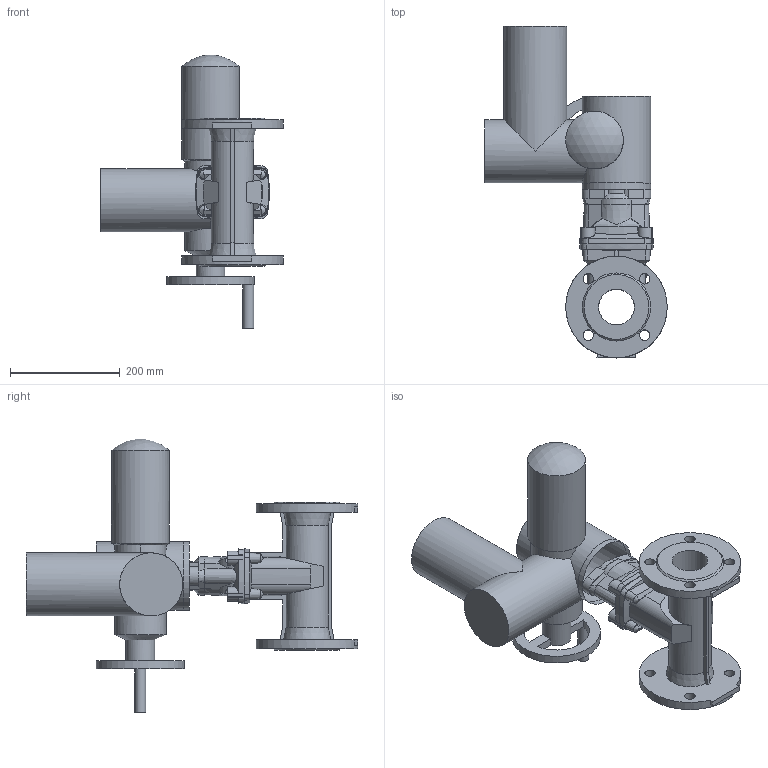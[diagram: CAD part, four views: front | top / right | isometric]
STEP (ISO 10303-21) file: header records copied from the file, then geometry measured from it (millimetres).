
FILE_DESCRIPTION (( 'STEP AP203' ), '1' );
FILE_NAME ('O_15_72_DN065_X1X_SA07.6_AA0.step', '2017-03-20T12:44:39', ( 'Windows User' ), ( 'AVK' ), 'SwSTEP 2.0', 'SolidWorks 2012', '' );
FILE_SCHEMA (( 'CONFIG_CONTROL_DESIGN' ));
Length unit declared in the file: inch
Products named in the file (1): O_15_72_DN065_X1X_SA07.6_AA0
Bounding box: 332.5 x 604.5 x 498.55 mm (x, y, z)
Volume: 10753362.5 mm3; surface area: 648384.8 mm2
Topology: 1 solids, 1 shells, 267 faces, 732 edges, 472 vertices
Faces by surface type: plane 131, cylinder 65, cone 62, torus 6, bspline 2, sphere 1
Full cylindrical faces by diameter (mm): 19 x8, 20 x1, 52.112 x1, 65 x1, 93.905 x1, 105 x1, 115 x2, 125 x2, 160 x1, 185 x2
Entity records: 9630 total; most frequent: CARTESIAN_POINT 3309, ORIENTED_EDGE 1360, DIRECTION 1203, EDGE_CURVE 680, AXIS2_PLACEMENT_3D 471, VERTEX_POINT 449, EDGE_LOOP 321, FACE_OUTER_BOUND 286
